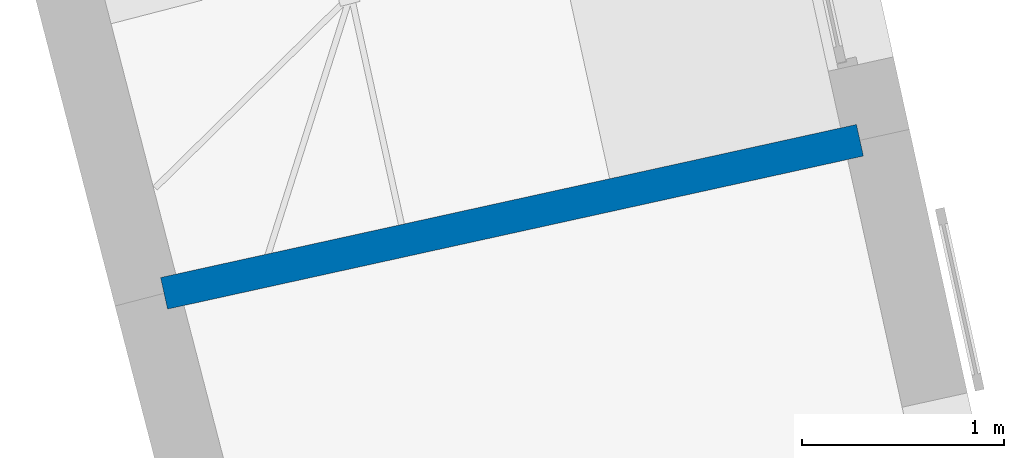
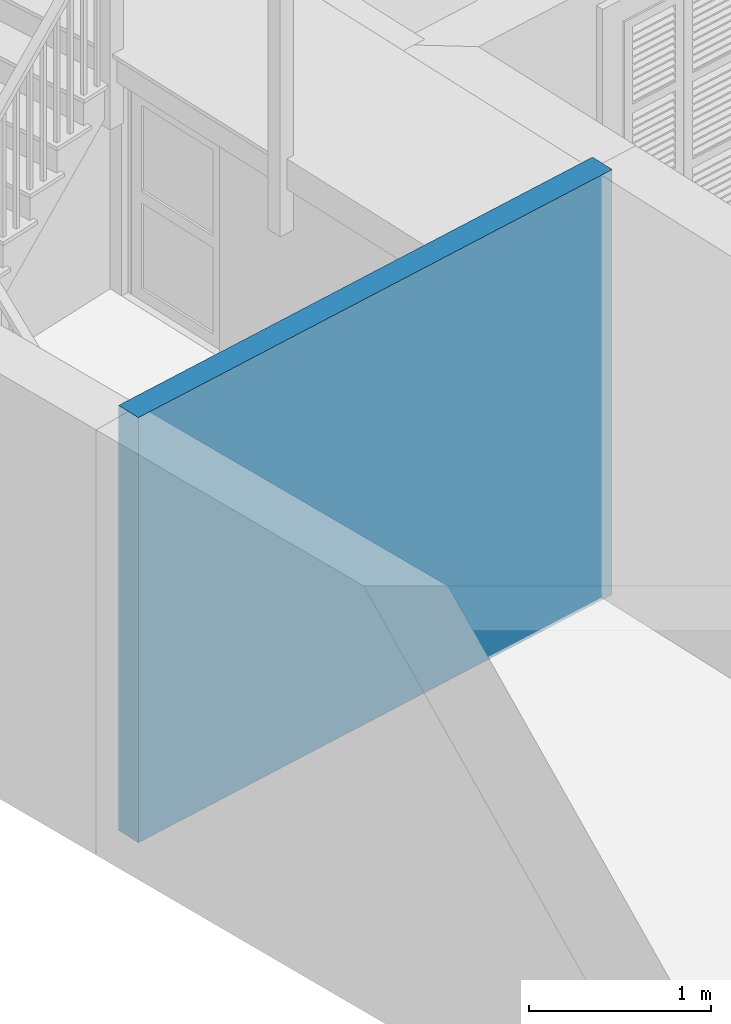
# One storey, part 7 of 14: 1 wall.
"""IFC4 building model written with IfcOpenShell, lengths in metres."""

from ifc_helpers import new_model, si_unit, frame, origin_with_axes, place, context, subcontext, project, spatial, polyline, outline, extrude, material, layer, layer_set, layer_usage, type_object, element, save


model = new_model("IFC4")

# Units and contexts
model_context = context("Model", 3, world=origin_with_axes())
body_context = subcontext(model_context, "Body", "Model", "MODEL_VIEW")
ifc_project = project(units=[si_unit("PLANEANGLEUNIT", "RADIAN"), si_unit("MASSUNIT", "GRAM", prefix="KILO"), si_unit("FORCEUNIT", "NEWTON", prefix="KILO"), si_unit("LENGTHUNIT", "METRE"), si_unit("AREAUNIT", "SQUARE_METRE"), si_unit("VOLUMEUNIT", "CUBIC_METRE")], contexts=[model_context, model_context])

# Site, building, storey
site_placement = place(None, origin_with_axes())
site = spatial("IfcSite", under=ifc_project, at=site_placement, Name="Site plot-2", CompositionType="ELEMENT")
building_placement = place(None, origin_with_axes())
building = spatial("IfcBuilding", under=site, at=building_placement, Name="Building plot-2", CompositionType="ELEMENT")
storey_placement = place(None, origin_with_axes())
storey = spatial("IfcBuildingStorey", under=building, at=storey_placement, Name="plot-2 0", CompositionType="ELEMENT", Elevation=0.0)

# Wall
ifc_material = material(Name="Masonry")
ifc_layer = layer(ifc_material, 0.16, ventilated=False)
ifc_layer_set = layer_set([ifc_layer], Name="interior_0.08_0.08")
ifc_layer_usage = layer_usage(ifc_layer_set, "AXIS2", "POSITIVE", -0.08)
wall_type = type_object("IfcWallType", Name="interior_0.08_0.08", PredefinedType="SOLIDWALL", material=ifc_layer_set)
wall_placement = place(storey_placement, frame((9.00451836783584, 10.3235043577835, 0.0), z_axis=(0.0, 0.0, 1.0), x_axis=(0.97665610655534, 0.214808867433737, 0.0)))
element("IfcWall", 1, at=wall_placement, inside=storey, type_object=wall_type, material=ifc_layer_usage, Name="interior", context=body_context, shape_type="SweptSolid", body=[
    extrude(outline(polyline([(-9.54334106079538e-16, 0.0799999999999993), (9.64131280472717e-16, -0.0799999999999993), (3.52361548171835, -0.0799999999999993), (3.52361548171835, 0.0799999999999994), (-9.54334106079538e-16, 0.0799999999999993)])), origin_with_axes(), (0.0, 0.0, 1.0), 2.85),
])

save(model, "model.ifc")
